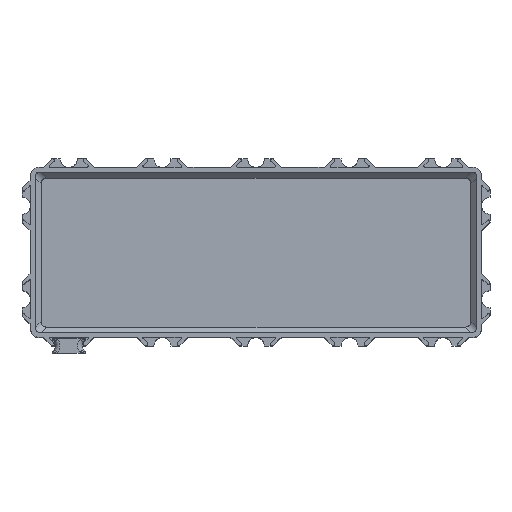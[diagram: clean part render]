
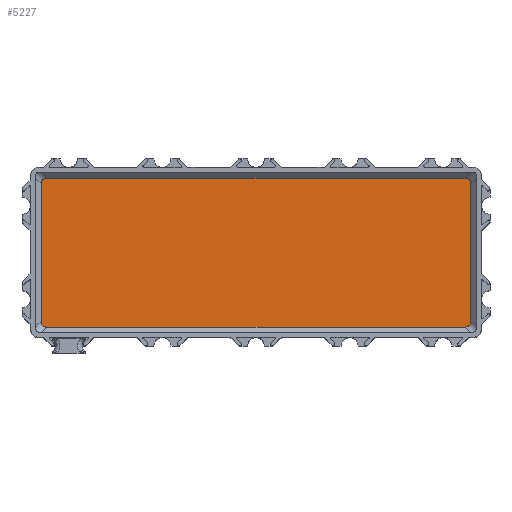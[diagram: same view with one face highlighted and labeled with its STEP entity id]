
A CAD part, top view. The second image highlights one B-rep face of the part: STEP entity #5227.
In plain terms, the highlighted planar face has unit normal (0, 0, 1).
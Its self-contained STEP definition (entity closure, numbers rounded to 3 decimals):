
#428=LINE('',#8648,#892);
#434=LINE('',#8681,#898);
#445=LINE('',#8740,#909);
#447=LINE('',#8743,#911);
#892=VECTOR('',#7107,10.);
#898=VECTOR('',#7127,10.);
#909=VECTOR('',#7164,10.);
#911=VECTOR('',#7168,10.);
#1084=PLANE('',#5752);
#1319=FACE_OUTER_BOUND('',#1583,.T.);
#1583=EDGE_LOOP('',(#4412,#4413,#4414,#4415,#4416,#4417,#4418,#4419));
#1690=ELLIPSE('',#5726,3.118,1.8);
#1694=ELLIPSE('',#5734,3.118,1.8);
#1697=ELLIPSE('',#5742,3.118,1.8);
#1699=ELLIPSE('',#5746,3.118,1.8);
#2318=VERTEX_POINT('',#8618);
#2319=VERTEX_POINT('',#8619);
#2324=VERTEX_POINT('',#8647);
#2327=VERTEX_POINT('',#8657);
#2330=VERTEX_POINT('',#8680);
#2334=VERTEX_POINT('',#8703);
#2338=VERTEX_POINT('',#8728);
#2339=VERTEX_POINT('',#8729);
#3010=EDGE_CURVE('',#2318,#2319,#1690,.T.);
#3018=EDGE_CURVE('',#2324,#2318,#428,.T.);
#3023=EDGE_CURVE('',#2327,#2324,#1694,.T.);
#3028=EDGE_CURVE('',#2330,#2327,#434,.T.);
#3035=EDGE_CURVE('',#2334,#2330,#1697,.T.);
#3041=EDGE_CURVE('',#2338,#2339,#1699,.T.);
#3047=EDGE_CURVE('',#2339,#2334,#445,.T.);
#3049=EDGE_CURVE('',#2319,#2338,#447,.T.);
#4412=ORIENTED_EDGE('',*,*,#3010,.T.);
#4413=ORIENTED_EDGE('',*,*,#3049,.T.);
#4414=ORIENTED_EDGE('',*,*,#3041,.T.);
#4415=ORIENTED_EDGE('',*,*,#3047,.T.);
#4416=ORIENTED_EDGE('',*,*,#3035,.T.);
#4417=ORIENTED_EDGE('',*,*,#3028,.T.);
#4418=ORIENTED_EDGE('',*,*,#3023,.T.);
#4419=ORIENTED_EDGE('',*,*,#3018,.T.);
#5227=ADVANCED_FACE('',(#1319),#1084,.F.);
#5726=AXIS2_PLACEMENT_3D('',#8620,#7093,#7094);
#5734=AXIS2_PLACEMENT_3D('',#8658,#7117,#7118);
#5742=AXIS2_PLACEMENT_3D('',#8704,#7140,#7141);
#5746=AXIS2_PLACEMENT_3D('',#8730,#7151,#7152);
#5752=AXIS2_PLACEMENT_3D('',#8744,#7169,#7170);
#7093=DIRECTION('center_axis',(0.,0.,1.));
#7094=DIRECTION('ref_axis',(-0.707,0.707,0.));
#7107=DIRECTION('',(-1.,0.,0.));
#7117=DIRECTION('center_axis',(0.,0.,1.));
#7118=DIRECTION('ref_axis',(0.707,0.707,0.));
#7127=DIRECTION('',(0.,1.,0.));
#7140=DIRECTION('center_axis',(0.,0.,1.));
#7141=DIRECTION('ref_axis',(0.707,-0.707,0.));
#7151=DIRECTION('center_axis',(0.,0.,1.));
#7152=DIRECTION('ref_axis',(-0.707,-0.707,0.));
#7164=DIRECTION('',(1.,0.,0.));
#7168=DIRECTION('',(0.,-1.,0.));
#7169=DIRECTION('center_axis',(0.,0.,-1.));
#7170=DIRECTION('ref_axis',(-1.,0.,0.));
#8618=CARTESIAN_POINT('',(5.77,39.503,-60.));
#8619=CARTESIAN_POINT('',(4.497,38.23,-60.));
#8620=CARTESIAN_POINT('Origin',(7.043,36.957,-60.));
#8647=CARTESIAN_POINT('',(104.23,39.503,-60.));
#8648=CARTESIAN_POINT('',(41.75,39.503,-60.));
#8657=CARTESIAN_POINT('',(105.503,38.23,-60.));
#8658=CARTESIAN_POINT('Origin',(102.957,36.957,-60.));
#8680=CARTESIAN_POINT('',(105.503,5.77,-60.));
#8681=CARTESIAN_POINT('',(105.503,27.,-60.));
#8703=CARTESIAN_POINT('',(104.23,4.497,-60.));
#8704=CARTESIAN_POINT('Origin',(102.957,7.043,-60.));
#8728=CARTESIAN_POINT('',(4.497,5.77,-60.));
#8729=CARTESIAN_POINT('',(5.77,4.497,-60.));
#8730=CARTESIAN_POINT('Origin',(7.043,7.043,-60.));
#8740=CARTESIAN_POINT('',(68.25,4.497,-60.));
#8743=CARTESIAN_POINT('',(4.497,17.,-60.));
#8744=CARTESIAN_POINT('Origin',(55.,22.,-60.));
